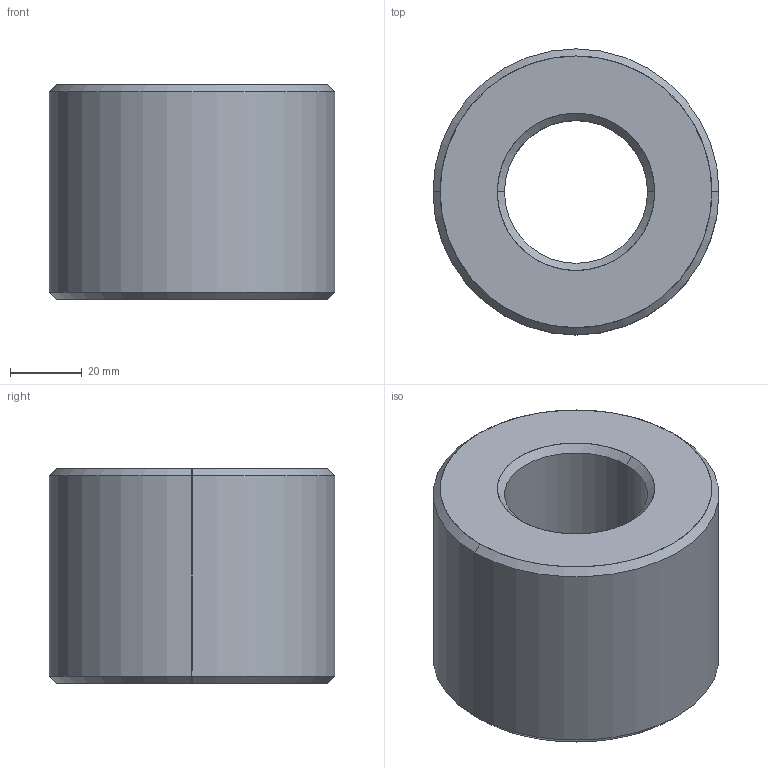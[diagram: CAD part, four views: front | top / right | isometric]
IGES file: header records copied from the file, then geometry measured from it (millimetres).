
Start section: SolidWorks IGES file using analytic representation for surfaces
Global section: file name: C:\Users\ianosborn\Desktop\L1339_v2\L1339_v2_20241024_IGES\L1339.R40-07.igs; native system: SolidWorks 2019; preprocessor: SolidWorks 2019; author: IanOsborn; date: 241024.151220; units: millimetre
Bounding box: 80 x 80 x 60 mm (x, y, z)
Surface area: 29275.9 mm2 (no closed solid volume)
Topology: 0 solids, 0 shells, 14 faces, 304 edges, 304 vertices
Faces by surface type: revolution 12, bspline 2
